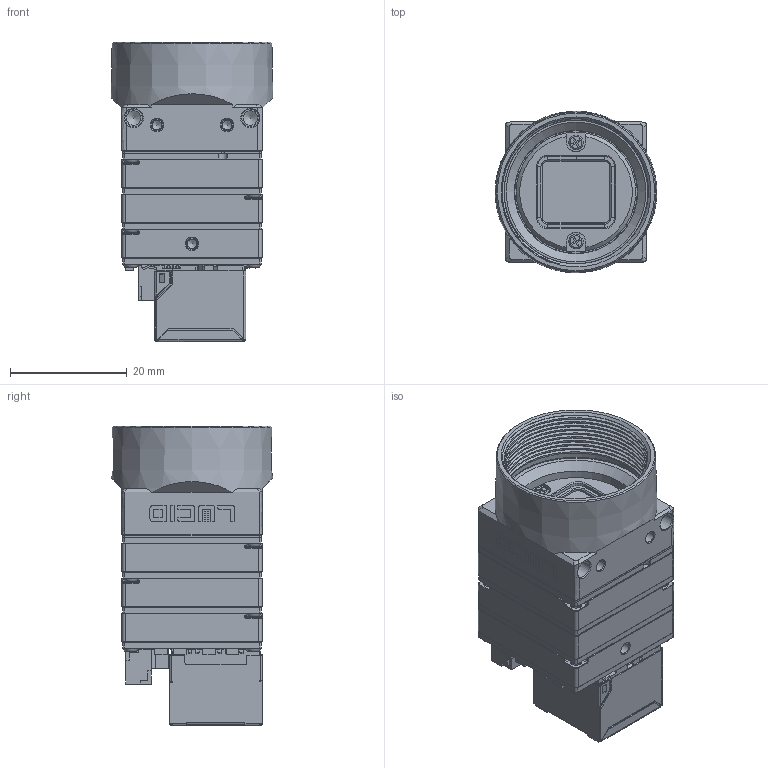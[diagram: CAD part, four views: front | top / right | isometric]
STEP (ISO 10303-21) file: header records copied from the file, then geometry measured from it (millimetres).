
FILE_DESCRIPTION (( 'STEP AP203' ), '1' );
FILE_NAME ('613-563-B_PHX24 C-MOUNT_CUBE.STEP', '2018-10-22T21:13:52', ( '' ), ( '' ), 'SwSTEP 2.0', 'SolidWorks 2017', '' );
FILE_SCHEMA (( 'CONFIG_CONTROL_DESIGN' ));
Products named in the file (1): 613-563-B_PHX24 C-MOUNT_CUBE
Bounding box: 27.71 x 27.68 x 51.36 mm (x, y, z)
Volume: 9652.6 mm3; surface area: 20743.8 mm2
Topology: 55 solids, 55 shells, 4280 faces, 11103 edges, 6882 vertices
Faces by surface type: plane 2564, cylinder 994, bspline 282, cone 250, torus 124, sphere 66
Full cylindrical faces by diameter (mm): 1 x2, 1.05 x1, 1.1 x2, 1.2 x1, 1.35 x6, 1.5 x2, 1.6 x5, 1.7 x24, 1.8 x4, 1.9 x22, 2 x5, 2.5 x4, 3 x4, 25.5 x1
Entity records: 134958 total; most frequent: CARTESIAN_POINT 33097, ORIENTED_EDGE 21496, DIRECTION 20186, EDGE_CURVE 10748, VECTOR 7720, LINE 7720, VERTEX_POINT 6846, AXIS2_PLACEMENT_3D 6233
